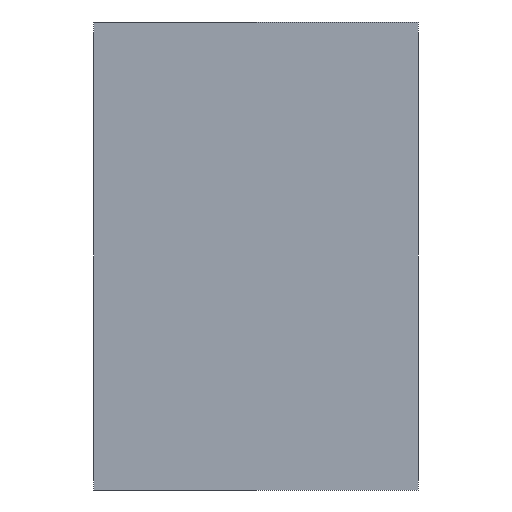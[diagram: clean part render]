
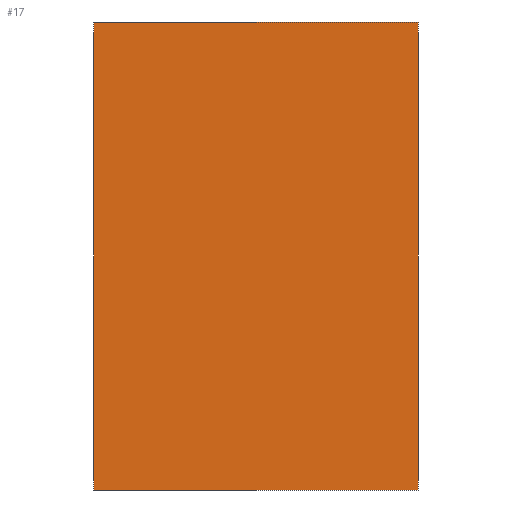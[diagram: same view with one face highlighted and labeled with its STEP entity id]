
A CAD part, left-side view. The second image highlights one B-rep face of the part: STEP entity #17.
In plain terms, the highlighted planar face has unit normal (-1, 0, 0).
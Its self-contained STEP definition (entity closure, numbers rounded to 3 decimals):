
#17 = ADVANCED_FACE('',(#18),#32,.F.);
#18 = FACE_BOUND('',#19,.F.);
#19 = EDGE_LOOP('',(#20,#55,#83,#111));
#20 = ORIENTED_EDGE('',*,*,#21,.F.);
#21 = EDGE_CURVE('',#22,#24,#26,.T.);
#22 = VERTEX_POINT('',#23);
#23 = CARTESIAN_POINT('',(-110.,-45.,-65.));
#24 = VERTEX_POINT('',#25);
#25 = CARTESIAN_POINT('',(-110.,-45.,65.));
#26 = SURFACE_CURVE('',#27,(#31,#43),.PCURVE_S1.);
#27 = LINE('',#28,#29);
#28 = CARTESIAN_POINT('',(-110.,-45.,-65.));
#29 = VECTOR('',#30,1.);
#30 = DIRECTION('',(0.,0.,1.));
#31 = PCURVE('',#32,#37);
#32 = PLANE('',#33);
#33 = AXIS2_PLACEMENT_3D('',#34,#35,#36);
#34 = CARTESIAN_POINT('',(-110.,-45.,-65.));
#35 = DIRECTION('',(1.,0.,0.));
#36 = DIRECTION('',(0.,0.,1.));
#37 = DEFINITIONAL_REPRESENTATION('',(#38),#42);
#38 = LINE('',#39,#40);
#39 = CARTESIAN_POINT('',(0.,0.));
#40 = VECTOR('',#41,1.);
#41 = DIRECTION('',(1.,0.));
#42 = ( GEOMETRIC_REPRESENTATION_CONTEXT(2) 
PARAMETRIC_REPRESENTATION_CONTEXT() REPRESENTATION_CONTEXT('2D SPACE',''
  ) );
#43 = PCURVE('',#44,#49);
#44 = PLANE('',#45);
#45 = AXIS2_PLACEMENT_3D('',#46,#47,#48);
#46 = CARTESIAN_POINT('',(-110.,-45.,-65.));
#47 = DIRECTION('',(0.,1.,0.));
#48 = DIRECTION('',(0.,0.,1.));
#49 = DEFINITIONAL_REPRESENTATION('',(#50),#54);
#50 = LINE('',#51,#52);
#51 = CARTESIAN_POINT('',(0.,0.));
#52 = VECTOR('',#53,1.);
#53 = DIRECTION('',(1.,0.));
#54 = ( GEOMETRIC_REPRESENTATION_CONTEXT(2) 
PARAMETRIC_REPRESENTATION_CONTEXT() REPRESENTATION_CONTEXT('2D SPACE',''
  ) );
#55 = ORIENTED_EDGE('',*,*,#56,.T.);
#56 = EDGE_CURVE('',#22,#57,#59,.T.);
#57 = VERTEX_POINT('',#58);
#58 = CARTESIAN_POINT('',(-110.,45.,-65.));
#59 = SURFACE_CURVE('',#60,(#64,#71),.PCURVE_S1.);
#60 = LINE('',#61,#62);
#61 = CARTESIAN_POINT('',(-110.,-45.,-65.));
#62 = VECTOR('',#63,1.);
#63 = DIRECTION('',(0.,1.,0.));
#64 = PCURVE('',#32,#65);
#65 = DEFINITIONAL_REPRESENTATION('',(#66),#70);
#66 = LINE('',#67,#68);
#67 = CARTESIAN_POINT('',(0.,0.));
#68 = VECTOR('',#69,1.);
#69 = DIRECTION('',(0.,-1.));
#70 = ( GEOMETRIC_REPRESENTATION_CONTEXT(2) 
PARAMETRIC_REPRESENTATION_CONTEXT() REPRESENTATION_CONTEXT('2D SPACE',''
  ) );
#71 = PCURVE('',#72,#77);
#72 = PLANE('',#73);
#73 = AXIS2_PLACEMENT_3D('',#74,#75,#76);
#74 = CARTESIAN_POINT('',(-110.,-45.,-65.));
#75 = DIRECTION('',(0.,0.,1.));
#76 = DIRECTION('',(1.,0.,0.));
#77 = DEFINITIONAL_REPRESENTATION('',(#78),#82);
#78 = LINE('',#79,#80);
#79 = CARTESIAN_POINT('',(0.,0.));
#80 = VECTOR('',#81,1.);
#81 = DIRECTION('',(0.,1.));
#82 = ( GEOMETRIC_REPRESENTATION_CONTEXT(2) 
PARAMETRIC_REPRESENTATION_CONTEXT() REPRESENTATION_CONTEXT('2D SPACE',''
  ) );
#83 = ORIENTED_EDGE('',*,*,#84,.T.);
#84 = EDGE_CURVE('',#57,#85,#87,.T.);
#85 = VERTEX_POINT('',#86);
#86 = CARTESIAN_POINT('',(-110.,45.,65.));
#87 = SURFACE_CURVE('',#88,(#92,#99),.PCURVE_S1.);
#88 = LINE('',#89,#90);
#89 = CARTESIAN_POINT('',(-110.,45.,-65.));
#90 = VECTOR('',#91,1.);
#91 = DIRECTION('',(0.,0.,1.));
#92 = PCURVE('',#32,#93);
#93 = DEFINITIONAL_REPRESENTATION('',(#94),#98);
#94 = LINE('',#95,#96);
#95 = CARTESIAN_POINT('',(0.,-90.));
#96 = VECTOR('',#97,1.);
#97 = DIRECTION('',(1.,0.));
#98 = ( GEOMETRIC_REPRESENTATION_CONTEXT(2) 
PARAMETRIC_REPRESENTATION_CONTEXT() REPRESENTATION_CONTEXT('2D SPACE',''
  ) );
#99 = PCURVE('',#100,#105);
#100 = PLANE('',#101);
#101 = AXIS2_PLACEMENT_3D('',#102,#103,#104);
#102 = CARTESIAN_POINT('',(-110.,45.,-65.));
#103 = DIRECTION('',(0.,1.,0.));
#104 = DIRECTION('',(0.,0.,1.));
#105 = DEFINITIONAL_REPRESENTATION('',(#106),#110);
#106 = LINE('',#107,#108);
#107 = CARTESIAN_POINT('',(0.,0.));
#108 = VECTOR('',#109,1.);
#109 = DIRECTION('',(1.,0.));
#110 = ( GEOMETRIC_REPRESENTATION_CONTEXT(2) 
PARAMETRIC_REPRESENTATION_CONTEXT() REPRESENTATION_CONTEXT('2D SPACE',''
  ) );
#111 = ORIENTED_EDGE('',*,*,#112,.F.);
#112 = EDGE_CURVE('',#24,#85,#113,.T.);
#113 = SURFACE_CURVE('',#114,(#118,#125),.PCURVE_S1.);
#114 = LINE('',#115,#116);
#115 = CARTESIAN_POINT('',(-110.,-45.,65.));
#116 = VECTOR('',#117,1.);
#117 = DIRECTION('',(0.,1.,0.));
#118 = PCURVE('',#32,#119);
#119 = DEFINITIONAL_REPRESENTATION('',(#120),#124);
#120 = LINE('',#121,#122);
#121 = CARTESIAN_POINT('',(130.,0.));
#122 = VECTOR('',#123,1.);
#123 = DIRECTION('',(0.,-1.));
#124 = ( GEOMETRIC_REPRESENTATION_CONTEXT(2) 
PARAMETRIC_REPRESENTATION_CONTEXT() REPRESENTATION_CONTEXT('2D SPACE',''
  ) );
#125 = PCURVE('',#126,#131);
#126 = PLANE('',#127);
#127 = AXIS2_PLACEMENT_3D('',#128,#129,#130);
#128 = CARTESIAN_POINT('',(-110.,-45.,65.));
#129 = DIRECTION('',(0.,0.,1.));
#130 = DIRECTION('',(1.,0.,0.));
#131 = DEFINITIONAL_REPRESENTATION('',(#132),#136);
#132 = LINE('',#133,#134);
#133 = CARTESIAN_POINT('',(0.,0.));
#134 = VECTOR('',#135,1.);
#135 = DIRECTION('',(0.,1.));
#136 = ( GEOMETRIC_REPRESENTATION_CONTEXT(2) 
PARAMETRIC_REPRESENTATION_CONTEXT() REPRESENTATION_CONTEXT('2D SPACE',''
  ) );
